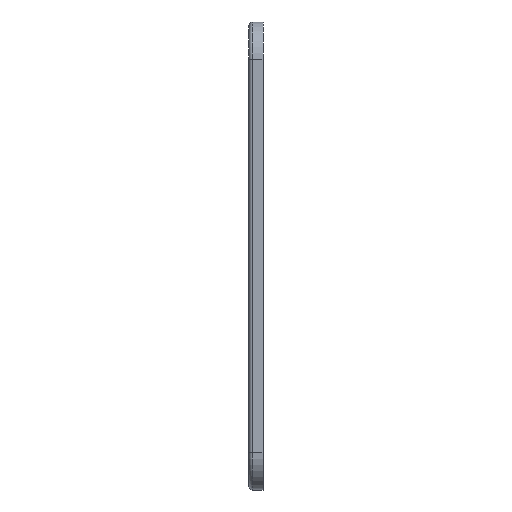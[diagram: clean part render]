
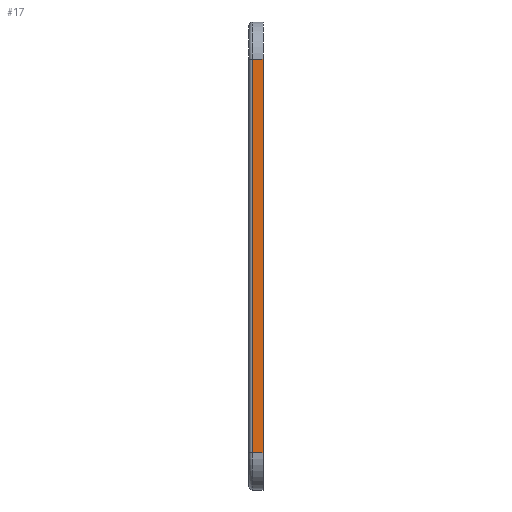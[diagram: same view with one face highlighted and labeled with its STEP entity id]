
A CAD part, left-side view. The second image highlights one B-rep face of the part: STEP entity #17.
In plain terms, the highlighted planar face has unit normal (-1, 0, 0).
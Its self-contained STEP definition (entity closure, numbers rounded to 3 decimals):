
#17 = ADVANCED_FACE('',(#18),#32,.F.);
#18 = FACE_BOUND('',#19,.F.);
#19 = EDGE_LOOP('',(#20,#55,#83,#111));
#20 = ORIENTED_EDGE('',*,*,#21,.T.);
#21 = EDGE_CURVE('',#22,#24,#26,.T.);
#22 = VERTEX_POINT('',#23);
#23 = CARTESIAN_POINT('',(-75.,97.,8.));
#24 = VERTEX_POINT('',#25);
#25 = CARTESIAN_POINT('',(-75.,99.2,8.));
#26 = SURFACE_CURVE('',#27,(#31,#43),.PCURVE_S1.);
#27 = LINE('',#28,#29);
#28 = CARTESIAN_POINT('',(-75.,97.,8.));
#29 = VECTOR('',#30,1.);
#30 = DIRECTION('',(0.,1.,0.));
#31 = PCURVE('',#32,#37);
#32 = PLANE('',#33);
#33 = AXIS2_PLACEMENT_3D('',#34,#35,#36);
#34 = CARTESIAN_POINT('',(-75.,97.,0.));
#35 = DIRECTION('',(1.,0.,0.));
#36 = DIRECTION('',(0.,0.,1.));
#37 = DEFINITIONAL_REPRESENTATION('',(#38),#42);
#38 = LINE('',#39,#40);
#39 = CARTESIAN_POINT('',(8.,0.));
#40 = VECTOR('',#41,1.);
#41 = DIRECTION('',(0.,-1.));
#42 = ( GEOMETRIC_REPRESENTATION_CONTEXT(2) 
PARAMETRIC_REPRESENTATION_CONTEXT() REPRESENTATION_CONTEXT('2D SPACE',''
  ) );
#43 = PCURVE('',#44,#49);
#44 = CYLINDRICAL_SURFACE('',#45,8.);
#45 = AXIS2_PLACEMENT_3D('',#46,#47,#48);
#46 = CARTESIAN_POINT('',(-67.,97.,8.));
#47 = DIRECTION('',(0.,1.,0.));
#48 = DIRECTION('',(-1.,0.,0.));
#49 = DEFINITIONAL_REPRESENTATION('',(#50),#54);
#50 = LINE('',#51,#52);
#51 = CARTESIAN_POINT('',(-0.,0.));
#52 = VECTOR('',#53,1.);
#53 = DIRECTION('',(-0.,1.));
#54 = ( GEOMETRIC_REPRESENTATION_CONTEXT(2) 
PARAMETRIC_REPRESENTATION_CONTEXT() REPRESENTATION_CONTEXT('2D SPACE',''
  ) );
#55 = ORIENTED_EDGE('',*,*,#56,.F.);
#56 = EDGE_CURVE('',#57,#24,#59,.T.);
#57 = VERTEX_POINT('',#58);
#58 = CARTESIAN_POINT('',(-75.,99.2,92.));
#59 = SURFACE_CURVE('',#60,(#64,#71),.PCURVE_S1.);
#60 = LINE('',#61,#62);
#61 = CARTESIAN_POINT('',(-75.,99.2,92.));
#62 = VECTOR('',#63,1.);
#63 = DIRECTION('',(-0.,-0.,-1.));
#64 = PCURVE('',#32,#65);
#65 = DEFINITIONAL_REPRESENTATION('',(#66),#70);
#66 = LINE('',#67,#68);
#67 = CARTESIAN_POINT('',(92.,-2.2));
#68 = VECTOR('',#69,1.);
#69 = DIRECTION('',(-1.,0.));
#70 = ( GEOMETRIC_REPRESENTATION_CONTEXT(2) 
PARAMETRIC_REPRESENTATION_CONTEXT() REPRESENTATION_CONTEXT('2D SPACE',''
  ) );
#71 = PCURVE('',#72,#77);
#72 = CYLINDRICAL_SURFACE('',#73,0.8);
#73 = AXIS2_PLACEMENT_3D('',#74,#75,#76);
#74 = CARTESIAN_POINT('',(-74.2,99.2,92.));
#75 = DIRECTION('',(-0.,-0.,-1.));
#76 = DIRECTION('',(0.,1.,-0.));
#77 = DEFINITIONAL_REPRESENTATION('',(#78),#82);
#78 = LINE('',#79,#80);
#79 = CARTESIAN_POINT('',(-1.571,0.));
#80 = VECTOR('',#81,1.);
#81 = DIRECTION('',(-0.,1.));
#82 = ( GEOMETRIC_REPRESENTATION_CONTEXT(2) 
PARAMETRIC_REPRESENTATION_CONTEXT() REPRESENTATION_CONTEXT('2D SPACE',''
  ) );
#83 = ORIENTED_EDGE('',*,*,#84,.F.);
#84 = EDGE_CURVE('',#85,#57,#87,.T.);
#85 = VERTEX_POINT('',#86);
#86 = CARTESIAN_POINT('',(-75.,97.,92.));
#87 = SURFACE_CURVE('',#88,(#92,#99),.PCURVE_S1.);
#88 = LINE('',#89,#90);
#89 = CARTESIAN_POINT('',(-75.,97.,92.));
#90 = VECTOR('',#91,1.);
#91 = DIRECTION('',(0.,1.,0.));
#92 = PCURVE('',#32,#93);
#93 = DEFINITIONAL_REPRESENTATION('',(#94),#98);
#94 = LINE('',#95,#96);
#95 = CARTESIAN_POINT('',(92.,0.));
#96 = VECTOR('',#97,1.);
#97 = DIRECTION('',(0.,-1.));
#98 = ( GEOMETRIC_REPRESENTATION_CONTEXT(2) 
PARAMETRIC_REPRESENTATION_CONTEXT() REPRESENTATION_CONTEXT('2D SPACE',''
  ) );
#99 = PCURVE('',#100,#105);
#100 = CYLINDRICAL_SURFACE('',#101,8.);
#101 = AXIS2_PLACEMENT_3D('',#102,#103,#104);
#102 = CARTESIAN_POINT('',(-67.,97.,92.));
#103 = DIRECTION('',(0.,1.,0.));
#104 = DIRECTION('',(-1.,0.,0.));
#105 = DEFINITIONAL_REPRESENTATION('',(#106),#110);
#106 = LINE('',#107,#108);
#107 = CARTESIAN_POINT('',(0.,0.));
#108 = VECTOR('',#109,1.);
#109 = DIRECTION('',(0.,1.));
#110 = ( GEOMETRIC_REPRESENTATION_CONTEXT(2) 
PARAMETRIC_REPRESENTATION_CONTEXT() REPRESENTATION_CONTEXT('2D SPACE',''
  ) );
#111 = ORIENTED_EDGE('',*,*,#112,.F.);
#112 = EDGE_CURVE('',#22,#85,#113,.T.);
#113 = SURFACE_CURVE('',#114,(#118,#125),.PCURVE_S1.);
#114 = LINE('',#115,#116);
#115 = CARTESIAN_POINT('',(-75.,97.,0.));
#116 = VECTOR('',#117,1.);
#117 = DIRECTION('',(0.,0.,1.));
#118 = PCURVE('',#32,#119);
#119 = DEFINITIONAL_REPRESENTATION('',(#120),#124);
#120 = LINE('',#121,#122);
#121 = CARTESIAN_POINT('',(0.,0.));
#122 = VECTOR('',#123,1.);
#123 = DIRECTION('',(1.,0.));
#124 = ( GEOMETRIC_REPRESENTATION_CONTEXT(2) 
PARAMETRIC_REPRESENTATION_CONTEXT() REPRESENTATION_CONTEXT('2D SPACE',''
  ) );
#125 = PCURVE('',#126,#131);
#126 = PLANE('',#127);
#127 = AXIS2_PLACEMENT_3D('',#128,#129,#130);
#128 = CARTESIAN_POINT('',(-75.,97.,0.));
#129 = DIRECTION('',(0.,1.,0.));
#130 = DIRECTION('',(0.,0.,1.));
#131 = DEFINITIONAL_REPRESENTATION('',(#132),#136);
#132 = LINE('',#133,#134);
#133 = CARTESIAN_POINT('',(0.,0.));
#134 = VECTOR('',#135,1.);
#135 = DIRECTION('',(1.,0.));
#136 = ( GEOMETRIC_REPRESENTATION_CONTEXT(2) 
PARAMETRIC_REPRESENTATION_CONTEXT() REPRESENTATION_CONTEXT('2D SPACE',''
  ) );
